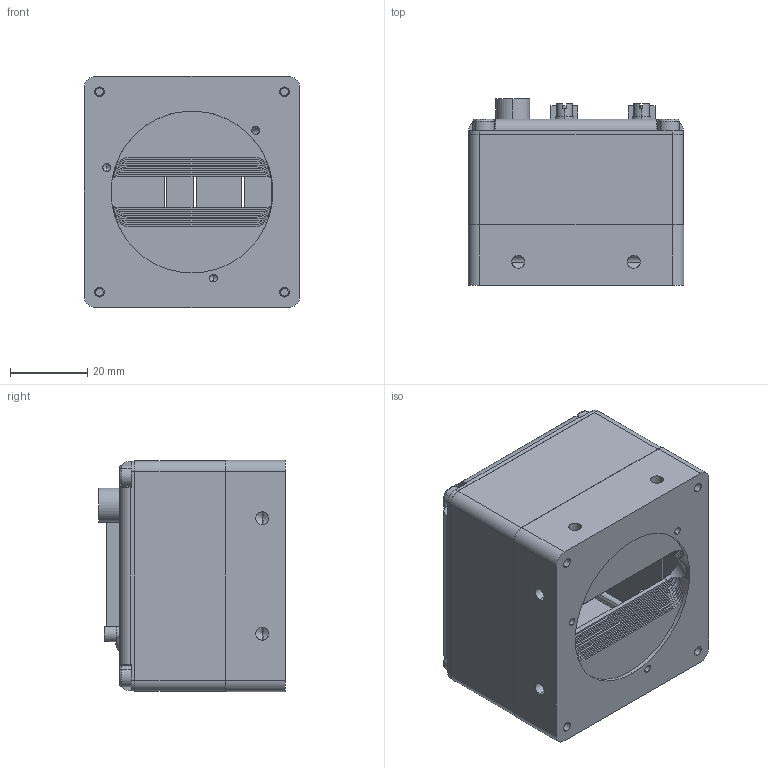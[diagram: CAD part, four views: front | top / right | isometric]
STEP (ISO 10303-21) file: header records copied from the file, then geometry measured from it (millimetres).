
FILE_DESCRIPTION (( 'STEP AP203' ), '1' );
FILE_NAME ('AT0836 carcasse.STEP', '2010-02-23T07:12:32', ( 'perso' ), ( '' ), 'SwSTEP 2.0', 'SolidWorks 2010', '' );
FILE_SCHEMA (( 'CONFIG_CONTROL_DESIGN' ));
Length unit declared in the file: millimetre
Products named in the file (9): Connecteur Camera Link; vis_chc_M 3 X  30  ; AT0836 carcasse; 106563; 106562; U9001084; Connecteur Alim.; Seder - GLC 3 - XX; Entretoise Connecteur
Assembly tree (15 placements, depth 2):
  AT0836 carcasse
    U9001084
    vis_chc_M 3 X  30    x4
    106562
    Entretoise Connecteur  x4
    106563
    Connecteur Alim.
    Connecteur Camera Link  x2
    Seder - GLC 3 - XX
Bounding box: 56 x 48.4 x 60 mm (x, y, z)
Volume: 56491.2 mm3; surface area: 38319.9 mm2
Topology: 15 solids, 15 shells, 799 faces, 2145 edges, 1390 vertices
Faces by surface type: plane 432, cylinder 268, cone 53, bspline 36, torus 8, sphere 2
Entity records: 25409 total; most frequent: CARTESIAN_POINT 7598, ORIENTED_EDGE 3546, DIRECTION 3398, EDGE_CURVE 1773, VERTEX_POINT 1173, AXIS2_PLACEMENT_3D 1135, VECTOR 1128, LINE 1128
